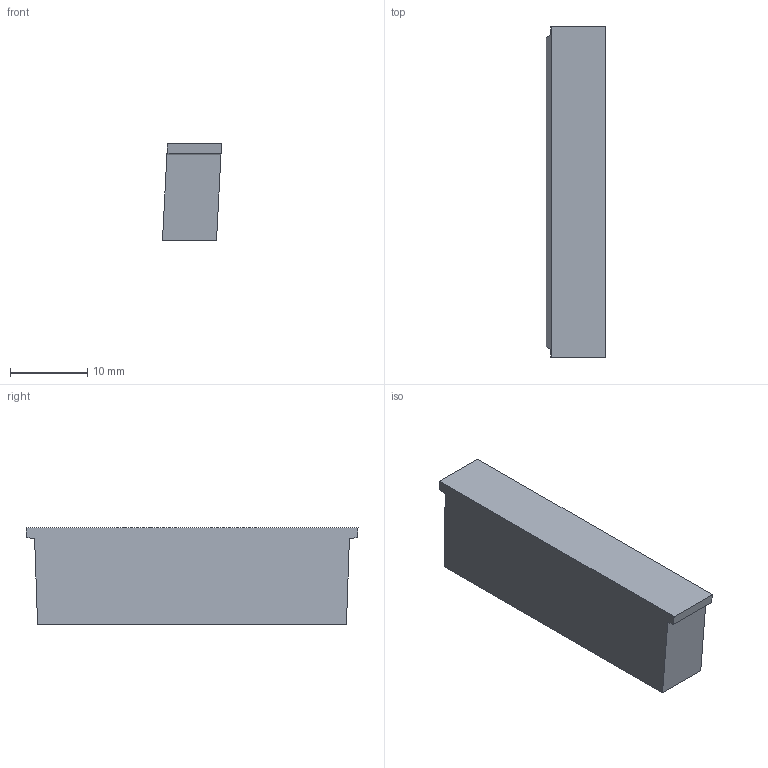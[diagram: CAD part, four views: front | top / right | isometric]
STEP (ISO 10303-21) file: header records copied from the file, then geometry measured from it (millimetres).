
FILE_DESCRIPTION((''),'2;1');
FILE_NAME('16208868_ACL-LENS-ENDCAP-43F','2020-09-30T10:16:21',('bernhard.fink'),(''),'CREO PARAMETRIC BY PTC INC, 2019164','CREO PARAMETRIC BY PTC INC, 2019164','');
FILE_SCHEMA(('CONFIG_CONTROL_DESIGN'));
Length unit declared in the file: millimetre
Products named in the file (1): 16208868_ACL-LENS-ENDCAP-43F
Bounding box: 7.66 x 43 x 12.5 mm (x, y, z)
Volume: 1042.8 mm3; surface area: 2116 mm2
Topology: 1 solids, 1 shells, 30 faces, 83 edges, 56 vertices
Faces by surface type: plane 30
Entity records: 981 total; most frequent: CARTESIAN_POINT 169, ORIENTED_EDGE 166, DIRECTION 143, VECTOR 83, LINE 83, EDGE_CURVE 83, VERTEX_POINT 56, EDGE_LOOP 31
